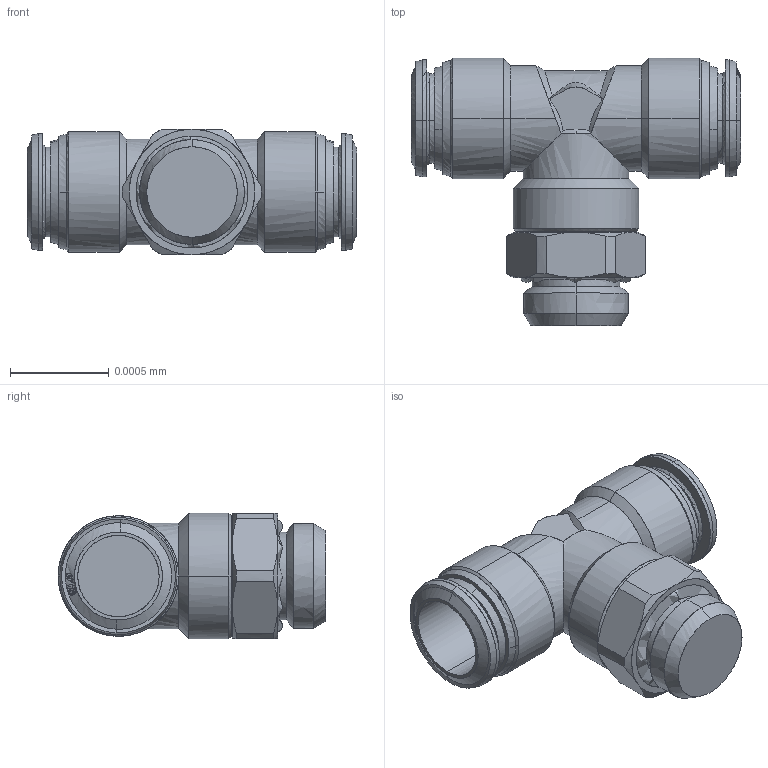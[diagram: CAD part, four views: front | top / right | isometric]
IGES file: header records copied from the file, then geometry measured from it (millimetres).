
Start section: SolidWorks IGES file using analytic representation for surfaces
Global section: file name: C:\Users\cad06\Desktop\3D per sito\5021600026A.IGS; native system: SolidWorks 2020; preprocessor: SolidWorks 2020; author: cad06; date: 240618.093951; units: mil
Bounding box: 0 x 0 x 0 mm (x, y, z)
Surface area: 0 mm2 (no closed solid volume)
Topology: 0 solids, 0 shells, 222 faces, 2473 edges, 2473 vertices
Faces by surface type: bspline 222
